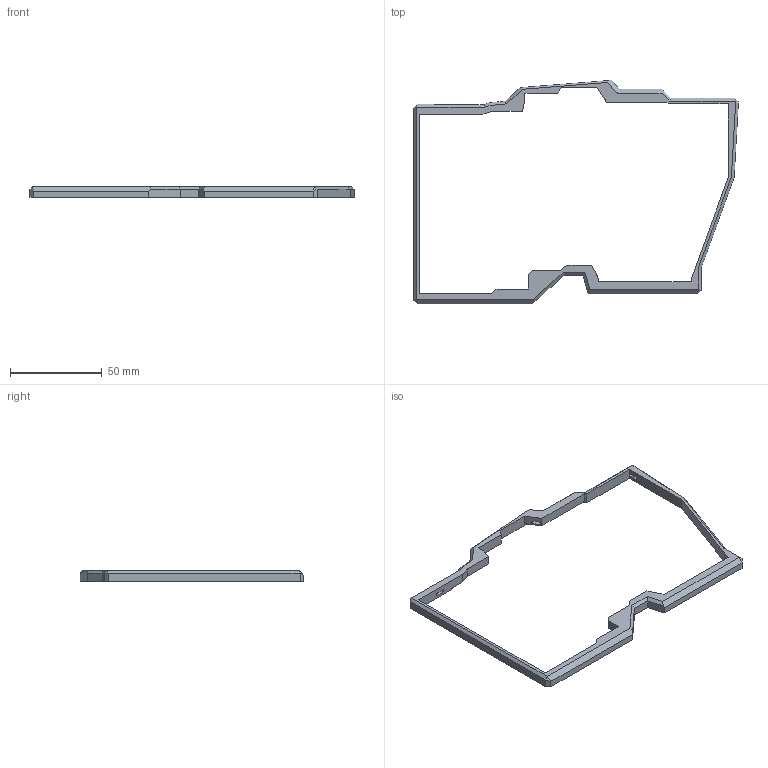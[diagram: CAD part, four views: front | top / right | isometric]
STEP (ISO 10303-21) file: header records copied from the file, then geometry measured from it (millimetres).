
FILE_DESCRIPTION(/* description */ (''),/* implementation_level */ '2;1');
FILE_NAME(/* name */ 'C:/Main_Storage/Keeb/Top_cover.step',/* time_stamp */ '2022-01-25T09:57:01-08:00',/* author */ (''),/* organization */ (''),/* preprocessor_version */ 'ST-DEVELOPER v18.1',/* originating_system */ 'Autodesk Translation Framework v10.13.0.1454',/* authorisation */ '');
FILE_SCHEMA (('AUTOMOTIVE_DESIGN { 1 0 10303 214 3 1 1 }'));
Length unit declared in the file: millimetre
Products named in the file (1): Top_cover
Bounding box: 177.06 x 121.93 x 6 mm (x, y, z)
Volume: 14354.6 mm3; surface area: 11982 mm2
Topology: 1 solids, 1 shells, 140 faces, 379 edges, 245 vertices
Faces by surface type: plane 133, cylinder 7
Full cylindrical faces by diameter (mm): 2.1 x7
Entity records: 4358 total; most frequent: CARTESIAN_POINT 765, ORIENTED_EDGE 758, DIRECTION 675, EDGE_CURVE 379, LINE 365, VECTOR 365, VERTEX_POINT 245, EDGE_LOOP 160
